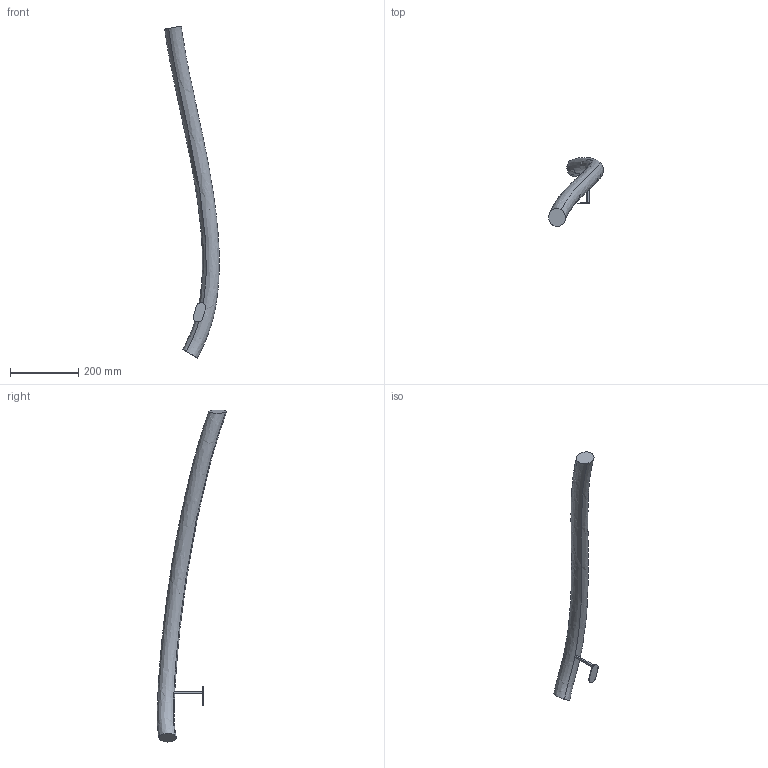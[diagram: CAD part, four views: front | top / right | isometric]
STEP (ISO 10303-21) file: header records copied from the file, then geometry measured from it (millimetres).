
FILE_DESCRIPTION (( 'STEP AP203' ), '1' );
FILE_NAME ('IRB6700-MH6_220-300_IRC5_rev00_LINK02m_CABLE.STEP', '2014-08-27T11:28:13', ( 'ABB' ), ( 'ABB' ), 'SwSTEP 2.0', 'SolidWorks 2012', '' );
FILE_SCHEMA (( 'CONFIG_CONTROL_DESIGN' ));
Length unit declared in the file: millimetre
Products named in the file (1): IRB6700-MH6_220-300_IRC5_rev00_LINK02m_CABLE
Bounding box: 160.59 x 204.37 x 975.48 mm (x, y, z)
Volume: 1957669.6 mm3; surface area: 165366.6 mm2
Topology: 1 solids, 1 shells, 14 faces, 30 edges, 20 vertices
Faces by surface type: plane 10, bspline 4
Entity records: 5741 total; most frequent: CARTESIAN_POINT 5395, ORIENTED_EDGE 60, DIRECTION 38, EDGE_CURVE 30, VERTEX_POINT 20, EDGE_LOOP 16, LINE 16, VECTOR 16
